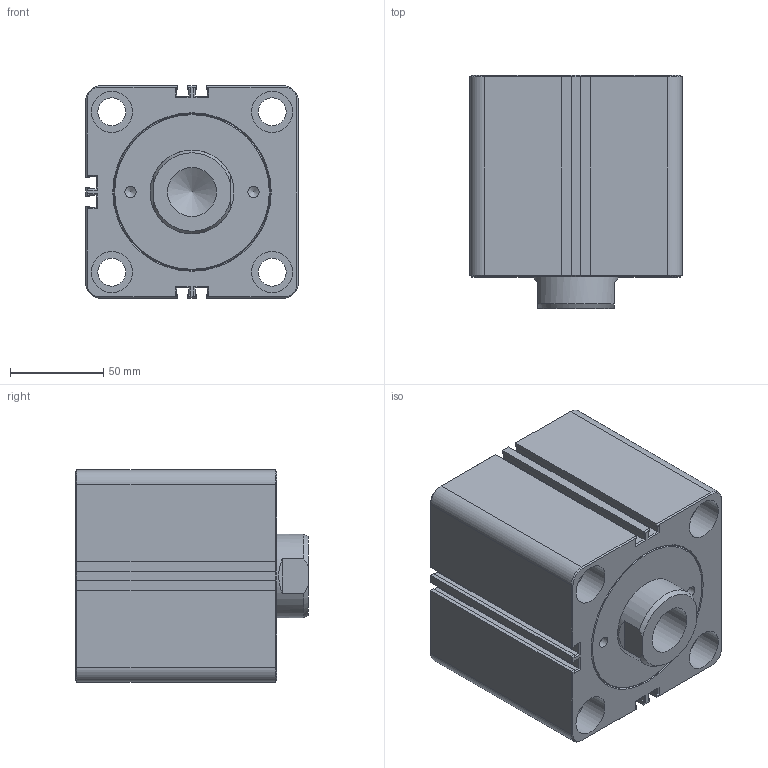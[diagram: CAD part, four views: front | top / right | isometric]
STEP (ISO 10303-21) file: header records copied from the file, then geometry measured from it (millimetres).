
FILE_DESCRIPTION(/* description */ ('Unknown'),/* implementation_level */ '2;1');
FILE_NAME(/* name */ 'HTM70-SDMB80X30N',/* time_stamp */ '2022-08-31T05:47:59+08:00',/* author */ ('Unknown'),/* organization */ ('Unknown'),/* preprocessor_version */ 'ST-DEVELOPER v16.7',/* originating_system */ 'DEX',/* authorisation */ $);
FILE_SCHEMA (('AUTOMOTIVE_DESIGN {1 0 10303 214 3 1 1}'));
Length unit declared in the file: millimetre
Products named in the file (1): HTM70-SDMB80X30N
Bounding box: 114 x 125 x 114 mm (x, y, z)
Volume: 1275290.6 mm3; surface area: 111432.7 mm2
Topology: 1 solids, 1 shells, 281 faces, 635 edges, 374 vertices
Faces by surface type: plane 180, cone 38, bspline 36, cylinder 27
Full cylindrical faces by diameter (mm): 6 x1, 6.1 x2, 7 x2, 15 x6, 16.5 x2, 22 x8, 26.211 x1, 45 x1
Entity records: 9649 total; most frequent: CARTESIAN_POINT 1869, ORIENTED_EDGE 1162, DIRECTION 1100, EDGE_CURVE 581, LINE 402, VECTOR 402, VERTEX_POINT 358, AXIS2_PLACEMENT_3D 349
